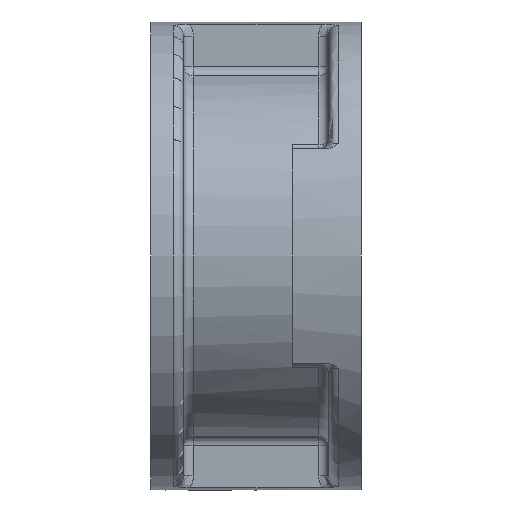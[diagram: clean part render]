
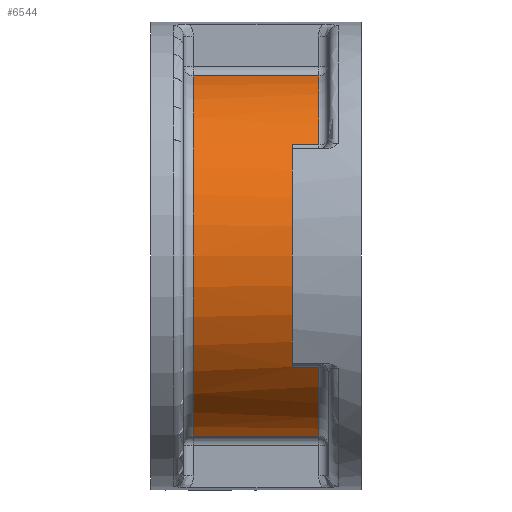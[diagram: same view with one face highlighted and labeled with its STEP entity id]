
A CAD part, left-side view. The second image highlights one B-rep face of the part: STEP entity #6544.
In plain terms, the highlighted cylindrical face has radius 56 mm (diameter 112 mm), a partial arc.
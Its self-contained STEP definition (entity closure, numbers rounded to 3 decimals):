
#74 = DIRECTION ( 'NONE',  ( 0., 1., 0. ) ) ;
#101 = CARTESIAN_POINT ( 'NONE',  ( 3453.839, 1139.673, 0. ) ) ;
#106 = CARTESIAN_POINT ( 'NONE',  ( 3409.11, 1196.031, -33.695 ) ) ;
#248 = CARTESIAN_POINT ( 'NONE',  ( 3409.11, 1196.031, 33.695 ) ) ;
#380 = VERTEX_POINT ( 'NONE', #4348 ) ;
#405 = EDGE_CURVE ( 'NONE', #5785, #5092, #8623, .T. ) ;
#637 = VERTEX_POINT ( 'NONE', #6119 ) ;
#702 = CARTESIAN_POINT ( 'NONE',  ( 3409.11, 1139.673, 33.695 ) ) ;
#988 = AXIS2_PLACEMENT_3D ( 'NONE', #101, #74, #7035 ) ;
#1027 = LINE ( 'NONE', #2030, #1704 ) ;
#1188 = CARTESIAN_POINT ( 'NONE',  ( 3441.5, 1177.673, 54.624 ) ) ;
#1261 = VECTOR ( 'NONE', #1345, 1000. ) ;
#1345 = DIRECTION ( 'NONE',  ( 0., -1., 0. ) ) ;
#1419 = VECTOR ( 'NONE', #2461, 1000. ) ;
#1439 = EDGE_LOOP ( 'NONE', ( #4884, #4147, #3177, #2617, #3280, #3841, #3390, #5379 ) ) ;
#1612 = EDGE_CURVE ( 'NONE', #637, #380, #7506, .T. ) ;
#1695 = EDGE_CURVE ( 'NONE', #380, #3771, #6642, .T. ) ;
#1704 = VECTOR ( 'NONE', #3489, 1000. ) ;
#1881 = DIRECTION ( 'NONE',  ( 0., 0., 1. ) ) ;
#1944 = DIRECTION ( 'NONE',  ( 0., 0., 1. ) ) ;
#2030 = CARTESIAN_POINT ( 'NONE',  ( 3441.5, 1196.031, 54.624 ) ) ;
#2038 = DIRECTION ( 'NONE',  ( 0., -1., 0. ) ) ;
#2149 = CIRCLE ( 'NONE', #3252, 56. ) ;
#2439 = VERTEX_POINT ( 'NONE', #8147 ) ;
#2461 = DIRECTION ( 'NONE',  ( 0., -1., 0. ) ) ;
#2617 = ORIENTED_EDGE ( 'NONE', *, *, #3623, .T. ) ;
#2797 = VECTOR ( 'NONE', #5718, 1000. ) ;
#2935 = DIRECTION ( 'NONE',  ( 0., 0., 1. ) ) ;
#3062 = AXIS2_PLACEMENT_3D ( 'NONE', #4325, #7090, #2935 ) ;
#3177 = ORIENTED_EDGE ( 'NONE', *, *, #8615, .F. ) ;
#3252 = AXIS2_PLACEMENT_3D ( 'NONE', #4728, #2038, #1944 ) ;
#3280 = ORIENTED_EDGE ( 'NONE', *, *, #405, .T. ) ;
#3390 = ORIENTED_EDGE ( 'NONE', *, *, #8528, .F. ) ;
#3489 = DIRECTION ( 'NONE',  ( 0., 1., 0. ) ) ;
#3623 = EDGE_CURVE ( 'NONE', #8884, #5785, #7326, .T. ) ;
#3699 = CYLINDRICAL_SURFACE ( 'NONE', #5062, 56. ) ;
#3771 = VERTEX_POINT ( 'NONE', #3919 ) ;
#3841 = ORIENTED_EDGE ( 'NONE', *, *, #8481, .T. ) ;
#3919 = CARTESIAN_POINT ( 'NONE',  ( 3409.11, 1147.673, -33.695 ) ) ;
#4016 = DIRECTION ( 'NONE',  ( 0., 1., 0. ) ) ;
#4147 = ORIENTED_EDGE ( 'NONE', *, *, #1695, .T. ) ;
#4325 = CARTESIAN_POINT ( 'NONE',  ( 3453.839, 1139.673, 0. ) ) ;
#4348 = CARTESIAN_POINT ( 'NONE',  ( 3409.11, 1139.673, -33.695 ) ) ;
#4603 = CARTESIAN_POINT ( 'NONE',  ( 3453.839, 1177.673, 0. ) ) ;
#4728 = CARTESIAN_POINT ( 'NONE',  ( 3453.839, 1147.673, 0. ) ) ;
#4884 = ORIENTED_EDGE ( 'NONE', *, *, #1612, .T. ) ;
#4920 = CARTESIAN_POINT ( 'NONE',  ( 3453.839, 1196.031, 0. ) ) ;
#4982 = CARTESIAN_POINT ( 'NONE',  ( 3441.5, 1139.673, 54.624 ) ) ;
#5062 = AXIS2_PLACEMENT_3D ( 'NONE', #4920, #7660, #8367 ) ;
#5092 = VERTEX_POINT ( 'NONE', #4982 ) ;
#5329 = EDGE_CURVE ( 'NONE', #2439, #637, #6116, .T. ) ;
#5379 = ORIENTED_EDGE ( 'NONE', *, *, #5329, .T. ) ;
#5718 = DIRECTION ( 'NONE',  ( 0., 1., 0. ) ) ;
#5785 = VERTEX_POINT ( 'NONE', #702 ) ;
#5876 = VERTEX_POINT ( 'NONE', #1188 ) ;
#6116 = LINE ( 'NONE', #8303, #1261 ) ;
#6119 = CARTESIAN_POINT ( 'NONE',  ( 3441.5, 1139.673, -54.624 ) ) ;
#6262 = CARTESIAN_POINT ( 'NONE',  ( 3409.11, 1147.673, 33.695 ) ) ;
#6544 = ADVANCED_FACE ( 'NONE', ( #7325 ), #3699, .T. ) ;
#6642 = LINE ( 'NONE', #106, #2797 ) ;
#6988 = AXIS2_PLACEMENT_3D ( 'NONE', #4603, #4016, #1881 ) ;
#7035 = DIRECTION ( 'NONE',  ( 0., 0., 1. ) ) ;
#7090 = DIRECTION ( 'NONE',  ( 0., 1., 0. ) ) ;
#7325 = FACE_OUTER_BOUND ( 'NONE', #1439, .T. ) ;
#7326 = LINE ( 'NONE', #248, #1419 ) ;
#7506 = CIRCLE ( 'NONE', #3062, 56. ) ;
#7660 = DIRECTION ( 'NONE',  ( 0., 1., 0. ) ) ;
#8147 = CARTESIAN_POINT ( 'NONE',  ( 3441.5, 1177.673, -54.624 ) ) ;
#8164 = CIRCLE ( 'NONE', #6988, 56. ) ;
#8303 = CARTESIAN_POINT ( 'NONE',  ( 3441.5, 1196.031, -54.624 ) ) ;
#8367 = DIRECTION ( 'NONE',  ( 0., 0., 1. ) ) ;
#8481 = EDGE_CURVE ( 'NONE', #5092, #5876, #1027, .T. ) ;
#8528 = EDGE_CURVE ( 'NONE', #2439, #5876, #8164, .T. ) ;
#8615 = EDGE_CURVE ( 'NONE', #8884, #3771, #2149, .T. ) ;
#8623 = CIRCLE ( 'NONE', #988, 56. ) ;
#8884 = VERTEX_POINT ( 'NONE', #6262 ) ;
